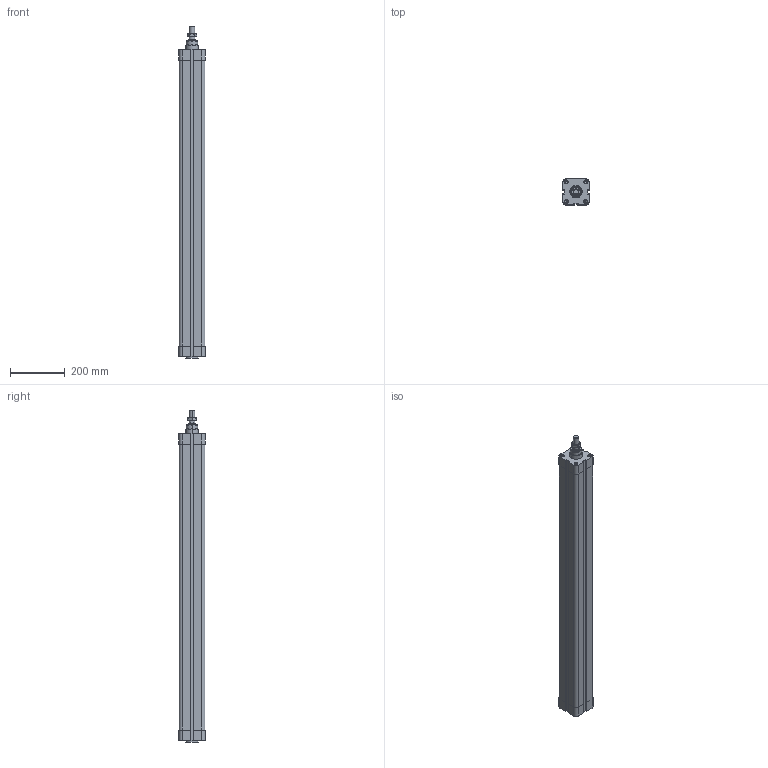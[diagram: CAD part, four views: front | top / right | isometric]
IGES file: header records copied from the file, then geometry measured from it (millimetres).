
Global section: file name: No Iges File Name specified; native system: AutoDesk Inventor R6.1; preprocessor: AutoDesk Inventor Iges Exporter R6.1; author: No Author specified; organization: No Organization specified; date: 20040107.171603; units: millimetre
Bounding box: 95.5 x 95.5 x 1218 mm (x, y, z)
Volume: 9946914.2 mm3; surface area: 667160.5 mm2
Topology: 3 solids, 3 shells, 244 faces, 570 edges, 356 vertices
Faces by surface type: plane 83, bspline 67, cylinder 34, revolution 34, cone 24, torus 2
